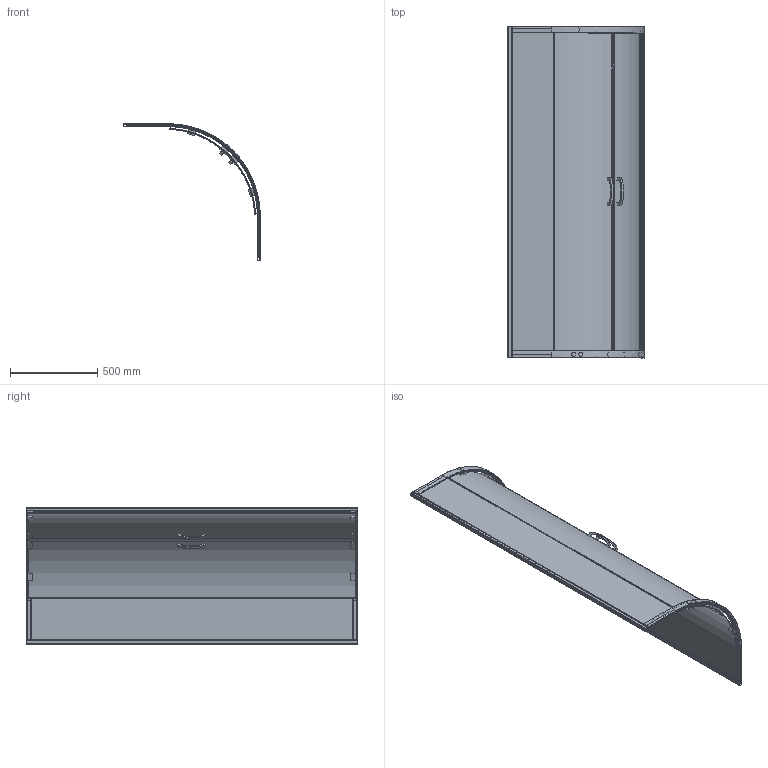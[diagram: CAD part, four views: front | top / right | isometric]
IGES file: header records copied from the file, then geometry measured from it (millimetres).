
Start section: SolidWorks IGES file using analytic representation for surfaces
Global section: file name: Y:\TKT\_PLIKI DLA ARCHITEKTÓW\01_KABINY\K19_TXU\KP4_TRINNITY_80.IGS; native system: SolidWorks 2018; preprocessor: SolidWorks 2018; author: k.halak; date: 190821.123654; units: millimetre
Bounding box: 782.5 x 1900 x 782.5 mm (x, y, z)
Surface area: 6895999.1 mm2 (no closed solid volume)
Topology: 0 solids, 0 shells, 478 faces, 3890 edges, 3890 vertices
Faces by surface type: bspline 350, revolution 128
